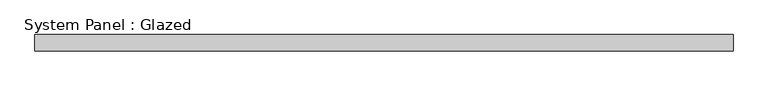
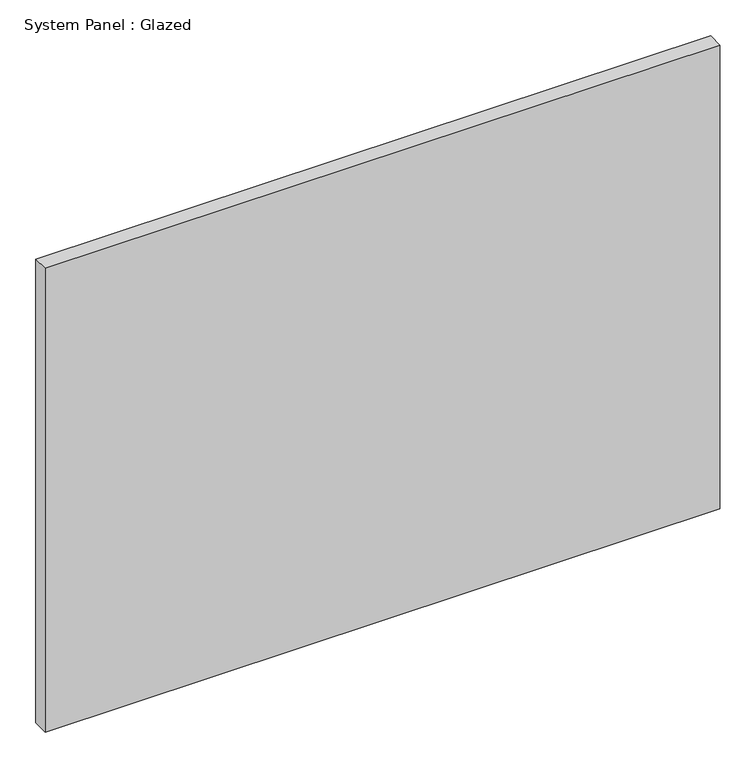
"""IFC4 building model written with IfcOpenShell, lengths in millimetres: plate geometry, System Panel : Glazed."""

import ifcopenshell
import ifcopenshell.guid

model = None  # the IFC model being written
_history = None  # IfcOwnerHistory: only IFC2X3 demands one
_inside = {}  # id of a spatial element -> (the spatial element, [elements in it])
_under = {}  # id of a project, library or spatial element -> (it, [spatial elements below it])
_declared = {}  # id of a project -> (the project, [libraries it declares])
_typed = {}  # id of a type object -> (the type object, [elements of that type])
_made_of = {}  # id of a material, layer set ... -> (it, [elements and type objects made of it])


def new_model(schema):
    """Start an empty IFC model of exactly this schema.

    Asked for "IFC4X3", IfcOpenShell would pick the latest addendum, in which some entities
    have other attributes; the version numbers below select the first issue.
    IFC2X3 requires an IfcOwnerHistory on every rooted entity: one is made here for all.
    """
    global model, _history
    if schema == "IFC4X3":
        model = ifcopenshell.file(schema_version=(4, 3, 0, 0))
    else:
        model = ifcopenshell.file(schema=schema)
    _inside.clear()
    _under.clear()
    _declared.clear()
    _typed.clear()
    _made_of.clear()
    _history = None
    if model.schema == "IFC2X3":
        org = make("IfcOrganization", Name="unknown")
        user = make(
            "IfcPersonAndOrganization",
            ThePerson=make("IfcPerson", FamilyName="unknown"),
            TheOrganization=org,
        )
        app = make(
            "IfcApplication",
            ApplicationDeveloper=org,
            Version="unknown",
            ApplicationFullName="unknown",
            ApplicationIdentifier="unknown",
        )
        _history = make(
            "IfcOwnerHistory",
            OwningUser=user,
            OwningApplication=app,
            ChangeAction="ADDED",
            CreationDate=0,
        )
    return model


def make(cls, **values):
    """One entity of the class cls with the attributes given. An attribute that is None is left unset."""
    return model.create_entity(
        cls, **{name: value for name, value in values.items() if value is not None}
    )


def rooted(cls, **values):
    """An entity with a GlobalId (a new one), such as an element, a storey or a relation."""
    return make(cls, GlobalId=ifcopenshell.guid.new(), OwnerHistory=_history, **values)


def si_unit(unit_type, name, prefix=None):
    """IfcSIUnit, for example si_unit("LENGTHUNIT", "METRE", prefix="MILLI")."""
    return make("IfcSIUnit", UnitType=unit_type, Prefix=prefix, Name=name)


def assignment(units):
    """IfcUnitAssignment: the units of a project."""
    return None if units is None else make("IfcUnitAssignment", Units=units)


def point(xyz):
    """IfcCartesianPoint."""
    return None if xyz is None else make("IfcCartesianPoint", Coordinates=xyz)


def direction(xyz):
    """IfcDirection."""
    return None if xyz is None else make("IfcDirection", DirectionRatios=xyz)


def frame(location, z_axis=None, x_axis=None):
    """IfcAxis2Placement3D, a coordinate frame: its origin and axes. An axis left out is left unset."""
    return make(
        "IfcAxis2Placement3D",
        Location=point(location),
        Axis=direction(z_axis),
        RefDirection=direction(x_axis),
    )


def origin():
    """The frame at (0, 0, 0) with its axes left unset."""
    return frame((0.0, 0.0, 0.0))


def origin_with_axes():
    """The frame at (0, 0, 0) with the z axis (0, 0, 1) and the x axis (1, 0, 0) written out."""
    return frame((0.0, 0.0, 0.0), z_axis=(0.0, 0.0, 1.0), x_axis=(1.0, 0.0, 0.0))


def place(relative_to, where):
    """IfcLocalPlacement: puts the frame where relative to a parent placement (None: the world)."""
    return make(
        "IfcLocalPlacement", PlacementRelTo=relative_to, RelativePlacement=where
    )


def context(
    kind, dimensions, precision=None, world=None, true_north=None, identifier=None
):
    """IfcGeometricRepresentationContext, for example the 3D "Model" context."""
    return make(
        "IfcGeometricRepresentationContext",
        ContextIdentifier=identifier,
        ContextType=kind,
        CoordinateSpaceDimension=dimensions,
        Precision=precision,
        WorldCoordinateSystem=world,
        TrueNorth=true_north,
    )


def project(units=None, contexts=None):
    """IfcProject with its units and contexts."""
    return rooted(
        "IfcProject",
        Name="project",
        RepresentationContexts=contexts,
        UnitsInContext=assignment(units),
    )


def spatial(cls, under=None, at=None, **own):
    """A site, building, storey or space (cls), placed at a placement, below another one or the project."""
    s = rooted(cls, ObjectPlacement=at, **own)
    if under is not None:
        _under.setdefault(under.id(), (under, []))[1].append(s)
    return s


def polyline(points):
    """IfcPolyline through the points."""
    return make("IfcPolyline", Points=[point(p) for p in points])


def outline(outer, holes=None, kind="AREA"):
    """IfcArbitraryClosedProfileDef: a profile drawn as a closed curve; with holes, ...WithVoids."""
    if holes is None:
        return make("IfcArbitraryClosedProfileDef", ProfileType=kind, OuterCurve=outer)
    return make(
        "IfcArbitraryProfileDefWithVoids",
        ProfileType=kind,
        OuterCurve=outer,
        InnerCurves=holes,
    )


def extrude(swept, where, along, depth):
    """IfcExtrudedAreaSolid: the profile swept, set in the frame where, extruded along a direction by depth."""
    return make(
        "IfcExtrudedAreaSolid",
        SweptArea=swept,
        Position=where,
        ExtrudedDirection=direction(along),
        Depth=depth,
    )


def shape(context_of_items, identifier, shape_type, items):
    """IfcShapeRepresentation: the items that make up one representation, for example the "Body"."""
    return make(
        "IfcShapeRepresentation",
        ContextOfItems=context_of_items,
        RepresentationIdentifier=identifier,
        RepresentationType=shape_type,
        Items=items,
    )


def source(mapping_origin, context_of_items, identifier, shape_type, items):
    """IfcRepresentationMap: a shape defined once, which mapped items show again and again."""
    return make(
        "IfcRepresentationMap",
        MappingOrigin=mapping_origin,
        MappedRepresentation=shape(context_of_items, identifier, shape_type, items),
    )


def transform(
    local_origin,
    x_axis=None,
    y_axis=None,
    z_axis=None,
    scale=None,
    scale2=None,
    scale3=None,
    uniform=True,
):
    """IfcCartesianTransformationOperator3D, or its non-uniform kind. x_axis, y_axis, z_axis: its Axis1, 2, 3."""
    if uniform:
        return make(
            "IfcCartesianTransformationOperator3D",
            Axis1=direction(x_axis),
            Axis2=direction(y_axis),
            LocalOrigin=point(local_origin),
            Scale=scale,
            Axis3=direction(z_axis),
        )
    return make(
        "IfcCartesianTransformationOperator3DnonUniform",
        Axis1=direction(x_axis),
        Axis2=direction(y_axis),
        LocalOrigin=point(local_origin),
        Scale=scale,
        Axis3=direction(z_axis),
        Scale2=scale2,
        Scale3=scale3,
    )


def mapped(mapping_source, mapping_target):
    """IfcMappedItem: shows the shape of a source again, moved by a transform."""
    return make(
        "IfcMappedItem", MappingSource=mapping_source, MappingTarget=mapping_target
    )


def made_of(thing, what):
    """Note that an element or type object is made of a material, layer set ...; save() writes the relation."""
    if what is not None:
        _made_of.setdefault(what.id(), (what, []))[1].append(thing)
    return thing


def element(
    cls,
    number,
    at=None,
    inside=None,
    cuts=None,
    type_object=None,
    material=None,
    context=None,
    identifier="Body",
    shape_type=None,
    held_by="IfcProductDefinitionShape",
    body=None,
    shapes=None,
    **own,
):
    """One element of the class cls, such as IfcWall. Its Tag is "e" and its number.

    at: its placement. inside: the storey or other place that contains it. cuts: it is an
    opening in that element (IfcRelVoidsElement). A single representation is given by context,
    identifier, shape_type and body (its items); several are given by shapes. held_by: the class
    of the entity that holds the representations. save() writes the other relations.
    """
    e = rooted(cls, Tag="e%d" % number, ObjectPlacement=at, **own)
    if body is not None:
        shapes = [shape(context, identifier, shape_type, body)]
    if shapes is not None:
        e.Representation = make(held_by, Representations=shapes)
    if inside is not None:
        _inside.setdefault(inside.id(), (inside, []))[1].append(e)
    if cuts is not None:
        rooted(
            "IfcRelVoidsElement", RelatingBuildingElement=cuts, RelatedOpeningElement=e
        )
    if type_object is not None:
        _typed.setdefault(type_object.id(), (type_object, []))[1].append(e)
    return made_of(e, material)


def aggregate(whole, parts):
    """IfcRelAggregates: a whole, such as a stair, and the parts it consists of."""
    return rooted("IfcRelAggregates", RelatingObject=whole, RelatedObjects=parts)


def save(model, path):
    """Write the relations noted so far, then the file.

    IfcRelAggregates (storeys below a building ...), IfcRelContainedInSpatialStructure (elements
    in a storey), IfcRelDefinesByType, IfcRelAssociatesMaterial and IfcRelDeclares: one each for
    every whole, place, type object, material and project.
    """
    for whole, parts in _under.values():
        aggregate(whole, parts)
    for where, things in _inside.values():
        rooted(
            "IfcRelContainedInSpatialStructure",
            RelatedElements=things,
            RelatingStructure=where,
        )
    for kind, things in _typed.values():
        rooted("IfcRelDefinesByType", RelatedObjects=things, RelatingType=kind)
    for what, things in _made_of.values():
        rooted("IfcRelAssociatesMaterial", RelatedObjects=things, RelatingMaterial=what)
    for by, libraries in _declared.values():
        rooted("IfcRelDeclares", RelatingContext=by, RelatedDefinitions=libraries)
    model.write(path)


def system_panel_glazed_097fd36c(model_context):
    return source(origin(), model_context, "Body", "SweptSolid", [
        extrude(outline(polyline([(542.1312498, 19.05), (-542.1312498, 19.05), (-542.1312498, 44.45), (542.1312498, 44.45), (542.1312498, 19.05)])), origin_with_axes(), (0.0, 0.0, 1.0), 787.4),
    ])


if __name__ == "__main__":
    model = new_model("IFC4")
    model_context = context("Model", 3, world=origin())
    ifc_project = project(units=[si_unit("LENGTHUNIT", "METRE", prefix="MILLI")], contexts=[model_context])
    site = spatial("IfcSite", under=ifc_project)
    building = spatial("IfcBuilding", under=site)
    placement = place(None, origin())
    system_panel_glazed_shape = system_panel_glazed_097fd36c(model_context)
    element("IfcPlate", 1, ObjectType="System Panel : Glazed", at=placement, inside=building, context=model_context, shape_type="MappedRepresentation", body=[
        mapped(system_panel_glazed_shape, transform((0.0, 0.0, 0.0), x_axis=(1.0, 0.0, 0.0), y_axis=(0.0, 1.0, 0.0), z_axis=(0.0, 0.0, 1.0))),
    ])
    save(model, "model.ifc")
